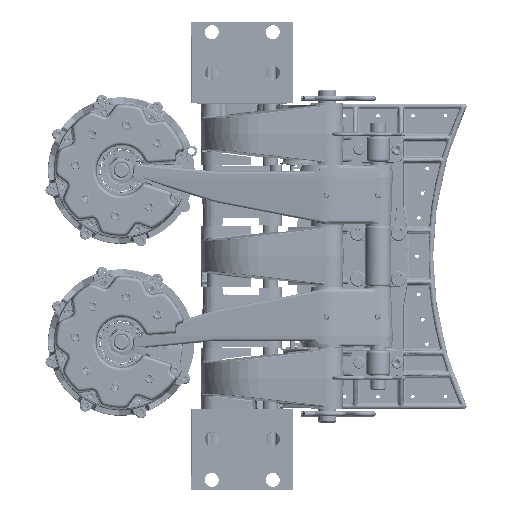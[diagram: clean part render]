
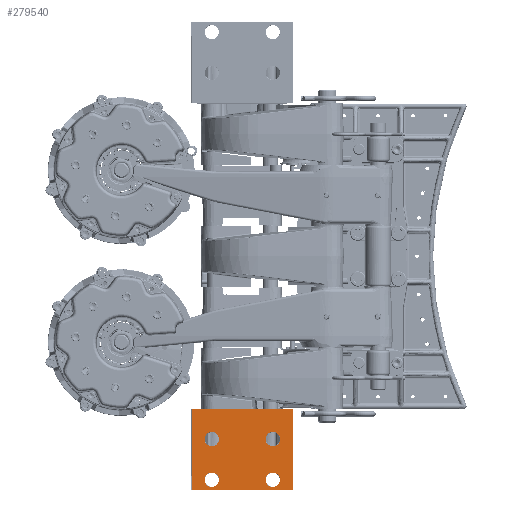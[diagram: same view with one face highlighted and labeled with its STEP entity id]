
A CAD part, top view. The second image highlights one B-rep face of the part: STEP entity #279540.
In plain terms, the highlighted planar face has unit normal (0, 0, 1).
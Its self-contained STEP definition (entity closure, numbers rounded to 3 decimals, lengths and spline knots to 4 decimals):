
#825 = CIRCLE ( 'NONE', #167217, 0.3538 ) ;
#1323 = EDGE_CURVE ( 'NONE', #231944, #31422, #206723, .T. ) ;
#7215 = CIRCLE ( 'NONE', #7420, 0.3538 ) ;
#7420 = AXIS2_PLACEMENT_3D ( 'NONE', #38553, #81779, #174014 ) ;
#12591 = EDGE_CURVE ( 'NONE', #36617, #245574, #227970, .T. ) ;
#13135 = EDGE_CURVE ( 'NONE', #23499, #275913, #232546, .T. ) ;
#23499 = VERTEX_POINT ( 'NONE', #265276 ) ;
#25335 = CARTESIAN_POINT ( 'NONE',  ( -1.0991, -9., 7.6477 ) ) ;
#27612 = CARTESIAN_POINT ( 'NONE',  ( -1.0991, -9., 7.6477 ) ) ;
#31025 = LINE ( 'NONE', #209638, #149948 ) ;
#31422 = VERTEX_POINT ( 'NONE', #218984 ) ;
#35292 = CARTESIAN_POINT ( 'NONE',  ( -1.0991, -11., 7.6477 ) ) ;
#36617 = VERTEX_POINT ( 'NONE', #271843 ) ;
#37047 = AXIS2_PLACEMENT_3D ( 'NONE', #70775, #143682, #75191 ) ;
#38553 = CARTESIAN_POINT ( 'NONE',  ( -4.0991, -9., 7.6477 ) ) ;
#47749 = EDGE_CURVE ( 'NONE', #122655, #36617, #31025, .T. ) ;
#48439 = CIRCLE ( 'NONE', #190974, 0.3538 ) ;
#48766 = ORIENTED_EDGE ( 'NONE', *, *, #12591, .T. ) ;
#55367 = VERTEX_POINT ( 'NONE', #64260 ) ;
#63005 = EDGE_CURVE ( 'NONE', #95085, #160494, #7215, .T. ) ;
#63475 = DIRECTION ( 'NONE',  ( 1., 0., 0. ) ) ;
#64260 = CARTESIAN_POINT ( 'NONE',  ( -1.4528, -9., 7.6477 ) ) ;
#64530 = ORIENTED_EDGE ( 'NONE', *, *, #95026, .T. ) ;
#70308 = EDGE_LOOP ( 'NONE', ( #292912, #217479 ) ) ;
#70775 = CARTESIAN_POINT ( 'NONE',  ( -0.0991, -11.5, 7.6477 ) ) ;
#72265 = FACE_BOUND ( 'NONE', #70308, .T. ) ;
#72290 = DIRECTION ( 'NONE',  ( 0., 0., -1. ) ) ;
#72934 = DIRECTION ( 'NONE',  ( 0., 0., -1. ) ) ;
#75191 = DIRECTION ( 'NONE',  ( 1., 0., 0. ) ) ;
#76693 = CARTESIAN_POINT ( 'NONE',  ( -0.0991, -7.5, 7.6477 ) ) ;
#81779 = DIRECTION ( 'NONE',  ( 0., 0., -1. ) ) ;
#83086 = EDGE_CURVE ( 'NONE', #55367, #257335, #233899, .T. ) ;
#86016 = VECTOR ( 'NONE', #186891, 39.3701 ) ;
#91590 = EDGE_CURVE ( 'NONE', #245574, #195557, #230034, .T. ) ;
#92205 = EDGE_CURVE ( 'NONE', #31422, #231944, #825, .T. ) ;
#93115 = FACE_BOUND ( 'NONE', #172265, .T. ) ;
#95026 = EDGE_CURVE ( 'NONE', #160494, #95085, #210277, .T. ) ;
#95085 = VERTEX_POINT ( 'NONE', #193055 ) ;
#102566 = ORIENTED_EDGE ( 'NONE', *, *, #83086, .T. ) ;
#105618 = EDGE_CURVE ( 'NONE', #195557, #122655, #159726, .T. ) ;
#107197 = ORIENTED_EDGE ( 'NONE', *, *, #105618, .T. ) ;
#108352 = CARTESIAN_POINT ( 'NONE',  ( -0.7453, -9., 7.6477 ) ) ;
#116386 = CARTESIAN_POINT ( 'NONE',  ( -0.1191, -11.5, 7.6477 ) ) ;
#118503 = DIRECTION ( 'NONE',  ( 1., 0., 0. ) ) ;
#119902 = FACE_OUTER_BOUND ( 'NONE', #171501, .T. ) ;
#120698 = CARTESIAN_POINT ( 'NONE',  ( -4.4528, -11., 7.6477 ) ) ;
#120921 = AXIS2_PLACEMENT_3D ( 'NONE', #170461, #261190, #118503 ) ;
#121376 = DIRECTION ( 'NONE',  ( 1., 0., 0. ) ) ;
#122655 = VERTEX_POINT ( 'NONE', #189789 ) ;
#122740 = DIRECTION ( 'NONE',  ( 1., 0., 0. ) ) ;
#131290 = ORIENTED_EDGE ( 'NONE', *, *, #92205, .T. ) ;
#137770 = FACE_BOUND ( 'NONE', #214827, .T. ) ;
#143682 = DIRECTION ( 'NONE',  ( 0., 0., -1. ) ) ;
#148004 = CARTESIAN_POINT ( 'NONE',  ( -4.0991, -11., 7.6477 ) ) ;
#149948 = VECTOR ( 'NONE', #278140, 39.3701 ) ;
#158941 = CIRCLE ( 'NONE', #120921, 0.3538 ) ;
#159726 = LINE ( 'NONE', #186453, #212623 ) ;
#160494 = VERTEX_POINT ( 'NONE', #166344 ) ;
#162276 = DIRECTION ( 'NONE',  ( 1., 0., 0. ) ) ;
#166344 = CARTESIAN_POINT ( 'NONE',  ( -4.4528, -9., 7.6477 ) ) ;
#167217 = AXIS2_PLACEMENT_3D ( 'NONE', #35292, #194487, #63475 ) ;
#167431 = DIRECTION ( 'NONE',  ( 0., 0., -1. ) ) ;
#170461 = CARTESIAN_POINT ( 'NONE',  ( -4.0991, -11., 7.6477 ) ) ;
#171188 = CARTESIAN_POINT ( 'NONE',  ( -5.0791, -7.5, 7.6477 ) ) ;
#171501 = EDGE_LOOP ( 'NONE', ( #185224, #48766, #259631, #107197 ) ) ;
#172265 = EDGE_LOOP ( 'NONE', ( #275661, #131290 ) ) ;
#173040 = ORIENTED_EDGE ( 'NONE', *, *, #63005, .T. ) ;
#174014 = DIRECTION ( 'NONE',  ( 1., 0., 0. ) ) ;
#180295 = AXIS2_PLACEMENT_3D ( 'NONE', #148004, #167431, #122740 ) ;
#183888 = FACE_BOUND ( 'NONE', #218005, .T. ) ;
#184504 = CARTESIAN_POINT ( 'NONE',  ( -0.7453, -11., 7.6477 ) ) ;
#185224 = ORIENTED_EDGE ( 'NONE', *, *, #47749, .T. ) ;
#186453 = CARTESIAN_POINT ( 'NONE',  ( -5.0791, -11.5, 7.6477 ) ) ;
#186891 = DIRECTION ( 'NONE',  ( -1., 0., 0. ) ) ;
#188277 = PLANE ( 'NONE',  #37047 ) ;
#189789 = CARTESIAN_POINT ( 'NONE',  ( -5.0791, -11.48, 7.6477 ) ) ;
#190974 = AXIS2_PLACEMENT_3D ( 'NONE', #27612, #72290, #121376 ) ;
#193055 = CARTESIAN_POINT ( 'NONE',  ( -3.7453, -9., 7.6477 ) ) ;
#194487 = DIRECTION ( 'NONE',  ( 0., 0., -1. ) ) ;
#195557 = VERTEX_POINT ( 'NONE', #171188 ) ;
#195831 = AXIS2_PLACEMENT_3D ( 'NONE', #25335, #72934, #162276 ) ;
#198274 = CARTESIAN_POINT ( 'NONE',  ( -1.0991, -11., 7.6477 ) ) ;
#199087 = ORIENTED_EDGE ( 'NONE', *, *, #267046, .T. ) ;
#204481 = EDGE_CURVE ( 'NONE', #275913, #23499, #158941, .T. ) ;
#205564 = AXIS2_PLACEMENT_3D ( 'NONE', #229760, #205961, #207421 ) ;
#205961 = DIRECTION ( 'NONE',  ( 0., 0., -1. ) ) ;
#206723 = CIRCLE ( 'NONE', #211427, 0.3538 ) ;
#207421 = DIRECTION ( 'NONE',  ( 1., 0., 0. ) ) ;
#208736 = DIRECTION ( 'NONE',  ( 0., -1., 0. ) ) ;
#209638 = CARTESIAN_POINT ( 'NONE',  ( -0.0991, -11.48, 7.6477 ) ) ;
#210277 = CIRCLE ( 'NONE', #205564, 0.3538 ) ;
#211427 = AXIS2_PLACEMENT_3D ( 'NONE', #198274, #289104, #266796 ) ;
#212623 = VECTOR ( 'NONE', #208736, 39.3701 ) ;
#213408 = VECTOR ( 'NONE', #274131, 39.3701 ) ;
#214827 = EDGE_LOOP ( 'NONE', ( #199087, #102566 ) ) ;
#217479 = ORIENTED_EDGE ( 'NONE', *, *, #204481, .T. ) ;
#218005 = EDGE_LOOP ( 'NONE', ( #173040, #64530 ) ) ;
#218984 = CARTESIAN_POINT ( 'NONE',  ( -1.4528, -11., 7.6477 ) ) ;
#227970 = LINE ( 'NONE', #116386, #213408 ) ;
#229760 = CARTESIAN_POINT ( 'NONE',  ( -4.0991, -9., 7.6477 ) ) ;
#230034 = LINE ( 'NONE', #76693, #86016 ) ;
#231944 = VERTEX_POINT ( 'NONE', #184504 ) ;
#232546 = CIRCLE ( 'NONE', #180295, 0.3538 ) ;
#233899 = CIRCLE ( 'NONE', #195831, 0.3538 ) ;
#245574 = VERTEX_POINT ( 'NONE', #267767 ) ;
#257335 = VERTEX_POINT ( 'NONE', #108352 ) ;
#259631 = ORIENTED_EDGE ( 'NONE', *, *, #91590, .T. ) ;
#261190 = DIRECTION ( 'NONE',  ( 0., 0., -1. ) ) ;
#265276 = CARTESIAN_POINT ( 'NONE',  ( -3.7453, -11., 7.6477 ) ) ;
#266796 = DIRECTION ( 'NONE',  ( 1., 0., 0. ) ) ;
#267046 = EDGE_CURVE ( 'NONE', #257335, #55367, #48439, .T. ) ;
#267767 = CARTESIAN_POINT ( 'NONE',  ( -0.1191, -7.5, 7.6477 ) ) ;
#271843 = CARTESIAN_POINT ( 'NONE',  ( -0.1191, -11.48, 7.6477 ) ) ;
#274131 = DIRECTION ( 'NONE',  ( 0., 1., 0. ) ) ;
#275661 = ORIENTED_EDGE ( 'NONE', *, *, #1323, .T. ) ;
#275913 = VERTEX_POINT ( 'NONE', #120698 ) ;
#278140 = DIRECTION ( 'NONE',  ( 1., 0., 0. ) ) ;
#279540 = ADVANCED_FACE ( 'NONE', ( #93115, #137770, #183888, #72265, #119902 ), #188277, .F. ) ;
#289104 = DIRECTION ( 'NONE',  ( 0., 0., -1. ) ) ;
#292912 = ORIENTED_EDGE ( 'NONE', *, *, #13135, .T. ) ;
